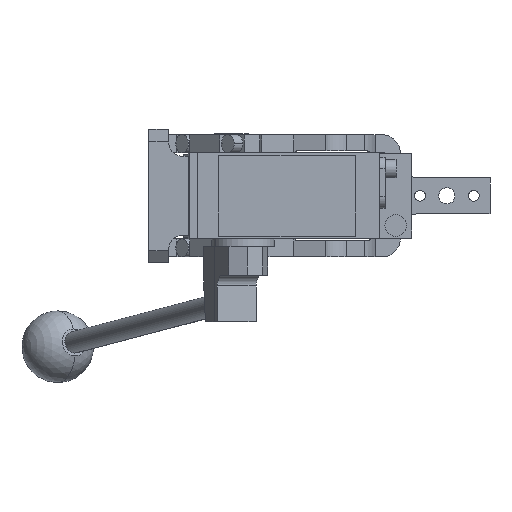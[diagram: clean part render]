
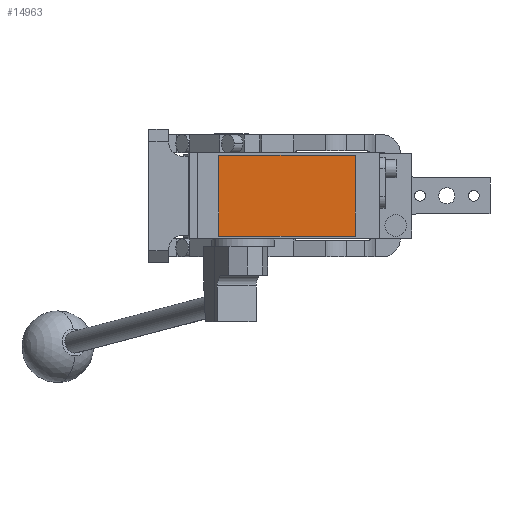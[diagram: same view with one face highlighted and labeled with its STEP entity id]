
A CAD part, front view. The second image highlights one B-rep face of the part: STEP entity #14963.
In plain terms, the highlighted planar face has unit normal (0, -1, 0).
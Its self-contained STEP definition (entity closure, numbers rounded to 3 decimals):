
#459 = VECTOR ( 'NONE', #9927, 1000. ) ;
#847 = LINE ( 'NONE', #11987, #3848 ) ;
#986 = DIRECTION ( 'NONE',  ( 0., -1., 0. ) ) ;
#1343 = CARTESIAN_POINT ( 'NONE',  ( -7., -280.5, 22.5 ) ) ;
#1371 = CARTESIAN_POINT ( 'NONE',  ( -7., -280.5, -22.5 ) ) ;
#1454 = DIRECTION ( 'NONE',  ( 1., 0., 0. ) ) ;
#1943 = VERTEX_POINT ( 'NONE', #8665 ) ;
#1973 = CARTESIAN_POINT ( 'NONE',  ( -7., -280.5, 22.5 ) ) ;
#3848 = VECTOR ( 'NONE', #10749, 1000. ) ;
#4226 = ORIENTED_EDGE ( 'NONE', *, *, #13448, .T. ) ;
#5018 = DIRECTION ( 'NONE',  ( 0., 0., -1. ) ) ;
#5092 = CARTESIAN_POINT ( 'NONE',  ( 0., -280.5, 0. ) ) ;
#6208 = EDGE_CURVE ( 'NONE', #13154, #12256, #847, .T. ) ;
#6315 = DIRECTION ( 'NONE',  ( 0., 0., 1. ) ) ;
#6359 = VERTEX_POINT ( 'NONE', #15441 ) ;
#6477 = LINE ( 'NONE', #10279, #8363 ) ;
#7128 = ORIENTED_EDGE ( 'NONE', *, *, #6208, .T. ) ;
#7334 = LINE ( 'NONE', #1343, #459 ) ;
#7633 = EDGE_CURVE ( 'NONE', #1943, #13154, #7334, .T. ) ;
#7715 = ORIENTED_EDGE ( 'NONE', *, *, #12122, .T. ) ;
#7754 = LINE ( 'NONE', #1371, #15052 ) ;
#8161 = EDGE_LOOP ( 'NONE', ( #7128, #4226, #7715, #11109 ) ) ;
#8363 = VECTOR ( 'NONE', #6315, 1000. ) ;
#8665 = CARTESIAN_POINT ( 'NONE',  ( 69., -280.5, 22.5 ) ) ;
#9742 = PLANE ( 'NONE',  #16153 ) ;
#9927 = DIRECTION ( 'NONE',  ( -1., 0., 0. ) ) ;
#10279 = CARTESIAN_POINT ( 'NONE',  ( 69., -280.5, 22.5 ) ) ;
#10523 = CARTESIAN_POINT ( 'NONE',  ( -7., -280.5, -22.5 ) ) ;
#10749 = DIRECTION ( 'NONE',  ( 0., 0., -1. ) ) ;
#11109 = ORIENTED_EDGE ( 'NONE', *, *, #7633, .T. ) ;
#11987 = CARTESIAN_POINT ( 'NONE',  ( -7., -280.5, 22.5 ) ) ;
#12122 = EDGE_CURVE ( 'NONE', #6359, #1943, #6477, .T. ) ;
#12256 = VERTEX_POINT ( 'NONE', #10523 ) ;
#12285 = FACE_OUTER_BOUND ( 'NONE', #8161, .T. ) ;
#13154 = VERTEX_POINT ( 'NONE', #1973 ) ;
#13448 = EDGE_CURVE ( 'NONE', #12256, #6359, #7754, .T. ) ;
#14963 = ADVANCED_FACE ( 'NONE', ( #12285 ), #9742, .T. ) ;
#15052 = VECTOR ( 'NONE', #1454, 1000. ) ;
#15441 = CARTESIAN_POINT ( 'NONE',  ( 69., -280.5, -22.5 ) ) ;
#16153 = AXIS2_PLACEMENT_3D ( 'NONE', #5092, #986, #5018 ) ;
